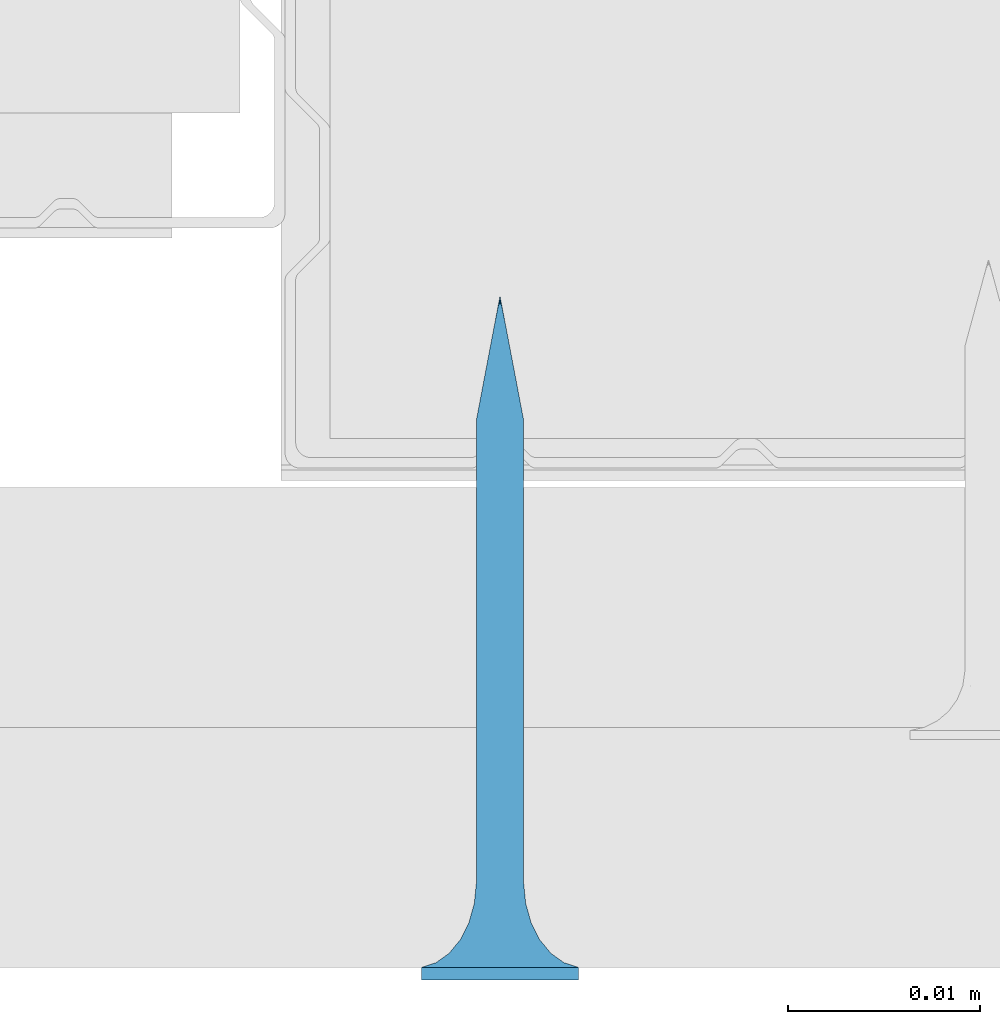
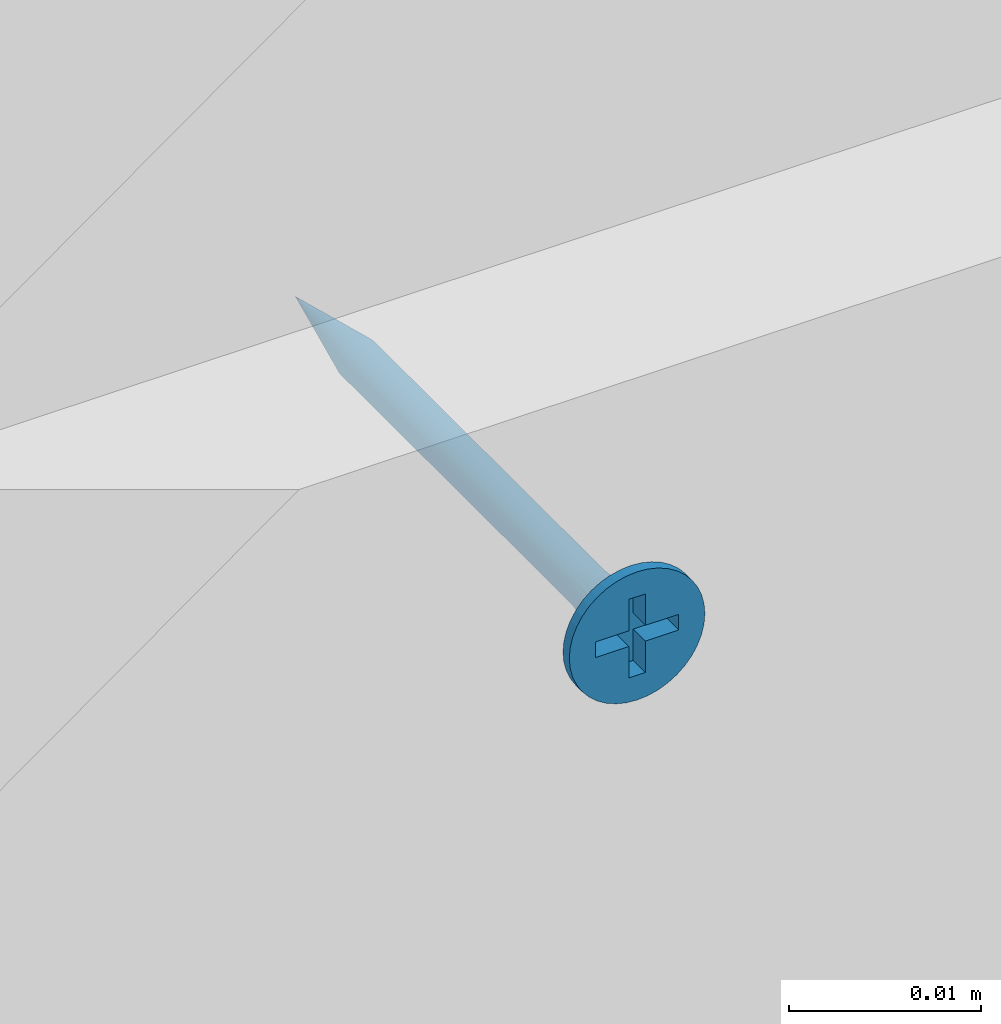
# One storey, part 21 of 39: 1 wall.
"""IFC2X3 building model written with IfcOpenShell, lengths in millimetres."""

from ifc_helpers import new_model, entity, si_unit, converted_unit, direction, frame, origin, origin_with_axes, place, context, project, spatial, faceted_brep, element, save


model = new_model("IFC2X3")

# Units and contexts
model_context = context("Model", 3, precision=1e-05, world=origin(), true_north=direction((0.0, 1.0, 0.0)))
ifc_project = project(units=[si_unit("LENGTHUNIT", "METRE", prefix="MILLI"), si_unit("AREAUNIT", "SQUARE_METRE"), si_unit("VOLUMEUNIT", "CUBIC_METRE"), converted_unit("PLANEANGLEUNIT", "DEGREE", entity("IfcPlaneAngleMeasure", 0.01745), si_unit("PLANEANGLEUNIT", "RADIAN"), dimensions=[0, 0, 0, 0, 0, 0, 0]), si_unit("SOLIDANGLEUNIT", "STERADIAN"), si_unit("MASSUNIT", "GRAM"), si_unit("TIMEUNIT", "SECOND"), si_unit("THERMODYNAMICTEMPERATUREUNIT", "DEGREE_CELSIUS"), si_unit("LUMINOUSINTENSITYUNIT", "LUMEN")], contexts=[model_context])

# Site, building, storey
site_placement = place(None, origin_with_axes())
site = spatial("IfcSite", under=ifc_project, at=site_placement, Name="Default Site", CompositionType="ELEMENT")
building_placement = place(site_placement, origin_with_axes())
building = spatial("IfcBuilding", under=site, at=building_placement, Name="Default Building", CompositionType="ELEMENT")
storey_placement = place(building_placement, origin_with_axes())
storey = spatial("IfcBuildingStorey", under=building, at=storey_placement, Name="Default Building Storey", CompositionType="ELEMENT", Elevation=0.0)

# Wall
wall_placement = place(storey_placement, frame((3258.585176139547, 6754.38934355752, 286.7018531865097), z_axis=(0.0, 0.0, 1.0), x_axis=(1.0, 4.718447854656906e-16, 0.0)))
element("IfcWall", 1, at=wall_placement, inside=storey, Name="Wkręt RIGIPS TN 35", context=model_context, shape_type="Brep", body=[
    faceted_brep([(-141.5377463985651, -4832.598051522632, 555.8000000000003), (-141.5377463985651, -4833.259713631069, 555.8000000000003), (-141.4875329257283, -4833.259713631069, 555.1619773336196), (-141.4875329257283, -4832.598051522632, 555.1619773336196), (-141.3381289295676, -4833.259713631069, 554.5396649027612), (-141.3381289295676, -4832.598051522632, 554.5396649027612), (-141.0932132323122, -4833.259713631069, 553.9483861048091), (-141.0932132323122, -4832.598051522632, 553.9483861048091), (-140.7588164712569, -4833.259713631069, 553.4027001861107), (-140.7588164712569, -4832.598051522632, 553.4027001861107), (-140.3431726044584, -4833.259713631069, 552.9160437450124), (-140.4541727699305, -4832.598051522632, 553.0314907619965), (-140.1080097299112, -4832.598051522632, 552.6986614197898), (-139.8565161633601, -4833.259713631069, 552.5003998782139), (-139.7251262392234, -4832.598051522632, 552.4088262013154), (-139.3108302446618, -4833.259713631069, 552.1660031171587), (-139.3108302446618, -4832.598051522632, 552.1660031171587), (-138.8708651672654, -4832.598051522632, 551.9735584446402), (-138.7195514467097, -4833.259713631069, 551.9210874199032), (-138.4113302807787, -4832.598051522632, 551.8341600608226), (-137.9385961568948, -4832.598051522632, 551.7497404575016), (-138.0972390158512, -4833.259713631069, 551.7716834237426), (-137.4592163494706, -4833.259713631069, 551.7214699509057), (-137.4592163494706, -4832.598051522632, 551.7214699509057), (-136.8211936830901, -4833.259713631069, 551.7716834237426), (-136.8211936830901, -4832.598051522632, 551.7716834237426), (-136.1988812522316, -4833.259713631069, 551.9210874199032), (-136.1988812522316, -4832.598051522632, 551.9210874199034), (-135.6076024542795, -4833.259713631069, 552.1660031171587), (-135.6076024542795, -4832.598051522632, 552.1660031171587), (-135.0619165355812, -4833.259713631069, 552.5003998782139), (-135.0619165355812, -4832.598051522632, 552.5003998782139), (-134.5752600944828, -4833.259713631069, 552.9160437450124), (-134.5752600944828, -4832.598051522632, 552.9160437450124), (-134.1596162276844, -4833.259713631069, 553.4027001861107), (-134.1596162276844, -4832.598051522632, 553.4027001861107), (-133.8252194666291, -4833.259713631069, 553.9483861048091), (-133.8252194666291, -4832.598051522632, 553.9483861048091), (-133.5803037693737, -4833.259713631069, 554.5396649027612), (-133.5803037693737, -4832.598051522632, 554.5396649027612), (-133.430899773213, -4833.259713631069, 556.4380226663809), (-133.430899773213, -4832.598051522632, 556.4380226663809), (-133.3806863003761, -4832.598051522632, 555.8000000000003), (-133.3806863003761, -4833.259713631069, 555.8000000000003), (-133.430899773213, -4832.598051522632, 555.1619773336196), (-133.430899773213, -4833.259713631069, 555.1619773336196), (-133.5803037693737, -4833.259713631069, 557.0603350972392), (-133.5803037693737, -4832.598051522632, 557.0603350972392), (-133.8252194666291, -4833.259713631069, 557.6516138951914), (-133.8252194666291, -4832.598051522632, 557.6516138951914), (-134.1596162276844, -4833.259713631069, 558.1972998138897), (-134.1596162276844, -4832.598051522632, 558.1972998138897), (-134.5752600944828, -4833.259713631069, 558.683956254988), (-134.5752600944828, -4832.598051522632, 558.683956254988), (-135.0619165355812, -4833.259713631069, 559.0996001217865), (-135.0619165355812, -4832.598051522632, 559.0996001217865), (-135.6076024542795, -4833.259713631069, 559.4339968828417), (-135.6076024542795, -4832.598051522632, 559.4339968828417), (-136.1988812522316, -4833.259713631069, 559.6789125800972), (-136.1988812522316, -4832.598051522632, 559.6789125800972), (-136.8211936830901, -4833.259713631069, 559.8283165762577), (-136.8211936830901, -4832.598051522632, 559.8283165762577), (-137.4592163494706, -4833.259713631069, 559.8785300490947), (-137.4592163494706, -4832.598051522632, 559.8785300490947), (-138.0972390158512, -4833.259713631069, 559.8283165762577), (-138.0972390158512, -4832.598051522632, 559.8283165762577), (-138.7195514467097, -4833.259713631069, 559.6789125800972), (-138.7195514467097, -4832.598051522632, 559.6789125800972), (-139.3108302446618, -4833.259713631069, 559.4339968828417), (-139.3108302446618, -4832.598051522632, 559.4339968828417), (-139.8565161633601, -4833.259713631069, 559.0996001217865), (-139.8565161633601, -4832.598051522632, 559.0996001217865), (-140.3431726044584, -4833.259713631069, 558.683956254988), (-140.3431726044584, -4832.598051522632, 558.683956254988), (-140.7588164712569, -4833.259713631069, 558.1972998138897), (-140.7588164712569, -4832.598051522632, 558.1972998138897), (-141.0932132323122, -4833.259713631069, 557.6516138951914), (-141.0932132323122, -4832.598051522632, 557.6516138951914), (-141.3381289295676, -4833.259713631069, 557.0603350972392), (-141.3381289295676, -4832.598051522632, 557.0603350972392), (-141.4875329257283, -4833.259713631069, 556.4380226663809), (-141.4875329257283, -4832.598051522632, 556.4380226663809), (-137.8060615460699, -4829.281368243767, 554.5055560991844), (-137.4592163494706, -4828.206294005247, 554.5693795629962), (-137.651727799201, -4828.206294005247, 554.5845305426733), (-137.4592163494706, -4829.281368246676, 554.4598930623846), (-137.83949897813, -4828.206294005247, 554.6296104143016), (-138.1292698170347, -4829.281368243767, 554.639433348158), (-138.0179063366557, -4828.206294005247, 554.7035091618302), (-138.1825568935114, -4828.206294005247, 554.804407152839), (-138.4068150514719, -4829.281368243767, 554.8524012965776), (-138.329396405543, -4828.206294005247, 554.929819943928), (-138.6197830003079, -4829.281368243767, 555.1299465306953), (-138.4548091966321, -4828.206294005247, 555.0766594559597), (-138.5557071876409, -4828.206294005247, 555.2413100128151), (-138.7536602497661, -4829.281368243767, 555.4531548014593), (-138.6296059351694, -4828.206294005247, 555.4197173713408), (-138.6746858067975, -4828.206294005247, 555.60748855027), (-138.7993232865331, -4829.281368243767, 555.7999999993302), (-138.6898367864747, -4828.206294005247, 555.8000000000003), (-138.753660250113, -4829.281368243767, 556.1468451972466), (-138.6746858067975, -4828.206294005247, 555.9925114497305), (-138.6296059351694, -4828.206294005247, 556.1802826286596), (-138.6197830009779, -4829.281368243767, 556.4700534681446), (-138.5557071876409, -4828.206294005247, 556.3586899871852), (-138.4548091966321, -4828.206294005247, 556.5233405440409), (-138.4068150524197, -4829.281368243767, 556.7475987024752), (-138.329396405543, -4828.206294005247, 556.6701800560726), (-138.1292698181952, -4829.281368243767, 556.9605666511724), (-138.1825568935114, -4828.206294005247, 556.7955928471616), (-138.0179063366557, -4828.206294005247, 556.8964908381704), (-137.8060615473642, -4829.281368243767, 557.0944439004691), (-137.83949897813, -4828.206294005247, 556.9703895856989), (-137.651727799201, -4828.206294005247, 557.0154694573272), (-137.4592163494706, -4829.281368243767, 557.1401069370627), (-137.4592163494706, -4828.206294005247, 557.0306204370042), (-137.112371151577, -4829.281368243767, 557.0944439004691), (-137.2667048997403, -4828.206294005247, 557.0154694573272), (-137.0789337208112, -4828.206294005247, 556.9703895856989), (-136.7891628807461, -4829.281368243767, 556.9605666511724), (-136.9005263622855, -4828.206294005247, 556.8964908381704), (-136.7358758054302, -4828.206294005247, 556.7955928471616), (-136.5116176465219, -4829.281368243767, 556.7475987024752), (-136.5890362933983, -4828.206294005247, 556.6701800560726), (-136.2986496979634, -4829.281368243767, 556.4700534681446), (-136.4636235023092, -4828.206294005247, 556.5233405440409), (-136.3627255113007, -4828.206294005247, 556.3586899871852), (-136.1647724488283, -4829.281368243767, 556.1468451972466), (-136.2888267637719, -4828.206294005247, 556.1802826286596), (-136.2437468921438, -4828.206294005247, 555.9925114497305), (-136.1191094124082, -4829.281368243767, 555.7999999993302), (-136.2285959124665, -4828.206294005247, 555.8000000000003), (-136.1647724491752, -4829.281368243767, 555.4531548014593), (-136.2437468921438, -4828.206294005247, 555.60748855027), (-136.2888267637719, -4828.206294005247, 555.4197173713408), (-136.2986496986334, -4829.281368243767, 555.1299465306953), (-136.3627255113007, -4828.206294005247, 555.2413100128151), (-136.4636235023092, -4828.206294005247, 555.0766594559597), (-136.5116176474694, -4829.281368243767, 554.8524012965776), (-136.5890362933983, -4828.206294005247, 554.929819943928), (-136.7891628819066, -4829.281368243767, 554.639433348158), (-136.7358758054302, -4828.206294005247, 554.804407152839), (-136.9005263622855, -4828.206294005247, 554.7035091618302), (-137.1123711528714, -4829.281368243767, 554.5055560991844), (-137.0789337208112, -4828.206294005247, 554.6296104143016), (-137.2667048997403, -4828.206294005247, 554.5845305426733), (-137.4592163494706, -4830.288222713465, 554.1737111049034), (-137.8801308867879, -4830.288222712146, 554.229125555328), (-138.2723607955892, -4830.288222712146, 554.3915925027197), (-138.6091762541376, -4830.288222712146, 554.6500400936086), (-138.8676238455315, -4830.288222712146, 554.9868555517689), (-139.0300907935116, -4830.288222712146, 555.3790854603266), (-139.0855052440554, -4830.288222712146, 555.7999999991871), (-139.0300907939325, -4830.288222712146, 556.2209145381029), (-138.8676238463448, -4830.288222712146, 556.6131444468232), (-138.6091762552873, -4830.288222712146, 556.9499599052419), (-138.2723607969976, -4830.288222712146, 557.2084074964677), (-137.8801308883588, -4830.288222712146, 557.3708744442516), (-137.4592163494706, -4830.288222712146, 557.426288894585), (-137.0383018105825, -4830.288222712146, 557.3708744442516), (-136.6460719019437, -4830.288222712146, 557.2084074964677), (-136.309256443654, -4830.288222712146, 556.9499599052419), (-136.0508088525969, -4830.288222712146, 556.6131444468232), (-135.8883419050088, -4830.288222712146, 556.2209145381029), (-135.8329274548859, -4830.288222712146, 555.7999999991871), (-135.8883419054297, -4830.288222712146, 555.3790854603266), (-136.0508088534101, -4830.288222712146, 554.9868555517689), (-136.309256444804, -4830.288222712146, 554.6500400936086), (-136.6460719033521, -4830.288222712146, 554.3915925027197), (-137.0383018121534, -4830.288222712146, 554.229125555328), (-137.4592163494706, -4831.168773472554, 553.7273431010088), (-137.9956594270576, -4831.168773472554, 553.7979671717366), (-138.4955447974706, -4831.168773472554, 554.005026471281), (-138.9248060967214, -4831.168773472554, 554.3344102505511), (-139.2541898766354, -4831.168773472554, 554.7636715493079), (-139.4612491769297, -4831.168773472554, 555.2635569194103), (-139.5318732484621, -4831.168773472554, 555.7999999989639), (-139.461249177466, -4831.168773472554, 556.3364430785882), (-139.2541898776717, -4831.168773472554, 556.8363284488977), (-138.9248060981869, -4831.168773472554, 557.2655897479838), (-138.4955447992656, -4831.168773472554, 557.594973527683), (-137.9956594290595, -4831.168773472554, 557.8020328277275), (-137.4592163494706, -4831.168773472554, 557.8726568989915), (-136.9227732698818, -4831.168773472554, 557.8020328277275), (-136.4228878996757, -4831.168773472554, 557.594973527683), (-135.9936266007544, -4831.168773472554, 557.2655897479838), (-135.6642428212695, -4831.168773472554, 556.8363284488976), (-135.4571835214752, -4831.168773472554, 556.3364430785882), (-135.3865594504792, -4831.168773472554, 555.7999999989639), (-135.4571835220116, -4831.168773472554, 555.2635569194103), (-135.6642428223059, -4831.168773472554, 554.7636715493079), (-135.9936266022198, -4831.168773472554, 554.3344102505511), (-136.4228879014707, -4831.168773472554, 554.005026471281), (-136.9227732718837, -4831.168773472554, 553.7979671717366), (-137.4592163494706, -4831.872222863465, 553.1465393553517), (-138.1459824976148, -4831.872222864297, 553.2369538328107), (-138.7859466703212, -4831.872222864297, 553.5020356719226), (-139.3354963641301, -4831.872222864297, 553.9237199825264), (-139.7571806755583, -4831.872222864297, 554.4732696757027), (-140.02226251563, -4831.872222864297, 555.1132338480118), (-140.1126769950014, -4831.872222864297, 555.7999999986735), (-140.0222625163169, -4831.872222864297, 556.4867661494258), (-139.7571806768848, -4831.872222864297, 557.1267303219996), (-139.3354963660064, -4831.872222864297, 557.6762800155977), (-138.785946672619, -4831.872222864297, 558.0979643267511), (-138.1459825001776, -4831.872222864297, 558.3630461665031), (-137.4592163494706, -4831.872222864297, 558.4534606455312), (-136.7724501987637, -4831.872222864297, 558.3630461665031), (-136.1324860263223, -4831.872222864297, 558.0979643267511), (-135.5829363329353, -4831.872222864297, 557.6762800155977), (-135.1612520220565, -4831.872222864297, 557.1267303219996), (-134.8961701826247, -4831.872222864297, 556.4867661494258), (-134.8057557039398, -4831.872222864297, 555.7999999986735), (-134.8961701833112, -4831.872222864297, 555.1132338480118), (-135.161252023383, -4831.872222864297, 554.4732696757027), (-135.5829363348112, -4831.872222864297, 553.9237199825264), (-136.1324860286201, -4831.872222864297, 553.5020356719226), (-136.7724502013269, -4831.872222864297, 553.2369538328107), (-137.4592163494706, -4832.357989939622, 552.4648055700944), (-138.3224281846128, -4832.357989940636, 552.578449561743), (-139.1268135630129, -4832.357989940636, 552.9116368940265), (-139.8175549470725, -4832.357989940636, 553.4416613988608), (-140.3475794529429, -4832.357989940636, 554.1324027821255), (-140.6807667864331, -4832.357989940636, 554.9367881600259), (-140.7944107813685, -4832.357989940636, 555.7999999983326), (-140.6807667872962, -4832.357989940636, 556.6632118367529), (-140.3475794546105, -4832.357989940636, 557.4675972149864), (-139.817554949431, -4832.357989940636, 558.1583385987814), (-139.1268135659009, -4832.357989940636, 558.6883631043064), (-138.3224281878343, -4832.357989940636, 559.0215504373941), (-137.4592163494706, -4832.357989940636, 559.1351944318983), (-136.5960045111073, -4832.357989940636, 559.0215504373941), (-135.7916191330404, -4832.357989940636, 558.6883631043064), (-135.1008777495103, -4832.357989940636, 558.1583385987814), (-134.5708532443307, -4832.357989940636, 557.4675972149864), (-134.2376659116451, -4832.357989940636, 556.6632118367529), (-134.1240219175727, -4832.357989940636, 555.7999999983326), (-134.2376659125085, -4832.357989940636, 554.9367881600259), (-134.5708532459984, -4832.357989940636, 554.1324027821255), (-135.1008777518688, -4832.357989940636, 553.4416613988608), (-135.7916191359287, -4832.357989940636, 552.9116368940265), (-136.5960045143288, -4832.357989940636, 552.578449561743), (-138.6898367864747, -4804.093757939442, 555.8000000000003), (-138.6746858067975, -4804.093757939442, 555.60748855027), (-138.6296059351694, -4804.093757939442, 555.4197173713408), (-138.5557071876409, -4804.093757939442, 555.2413100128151), (-138.4548091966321, -4804.093757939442, 555.0766594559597), (-138.329396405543, -4804.093757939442, 554.929819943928), (-138.1825568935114, -4804.093757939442, 554.804407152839), (-138.0179063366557, -4804.093757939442, 554.7035091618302), (-137.83949897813, -4804.093757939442, 554.6296104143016), (-137.651727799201, -4804.093757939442, 554.5845305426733), (-137.4592163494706, -4804.093757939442, 554.5693795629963), (-137.2667048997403, -4804.093757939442, 554.5845305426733), (-137.0789337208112, -4804.093757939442, 554.6296104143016), (-136.9005263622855, -4804.093757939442, 554.7035091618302), (-136.7358758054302, -4804.093757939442, 554.804407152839), (-136.5890362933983, -4804.093757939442, 554.929819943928), (-136.4636235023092, -4804.093757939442, 555.0766594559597), (-136.3627255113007, -4804.093757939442, 555.2413100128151), (-136.2888267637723, -4804.093757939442, 555.4197173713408), (-136.2437468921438, -4804.093757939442, 555.9925114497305), (-136.2285959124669, -4804.093757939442, 555.8000000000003), (-136.2437468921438, -4804.093757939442, 555.60748855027), (-136.2888267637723, -4804.093757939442, 556.1802826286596), (-136.3627255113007, -4804.093757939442, 556.3586899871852), (-136.4636235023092, -4804.093757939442, 556.5233405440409), (-136.5890362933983, -4804.093757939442, 556.6701800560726), (-136.7358758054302, -4804.093757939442, 556.7955928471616), (-136.9005263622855, -4804.093757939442, 556.8964908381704), (-137.0789337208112, -4804.093757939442, 556.9703895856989), (-137.2667048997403, -4804.093757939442, 557.0154694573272), (-137.4592163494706, -4804.093757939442, 557.0306204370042), (-137.651727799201, -4804.093757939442, 557.0154694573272), (-137.83949897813, -4804.093757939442, 556.9703895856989), (-138.0179063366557, -4804.093757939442, 556.8964908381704), (-138.1825568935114, -4804.093757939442, 556.7955928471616), (-138.329396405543, -4804.093757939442, 556.6701800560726), (-138.4548091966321, -4804.093757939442, 556.5233405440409), (-138.5557071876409, -4804.093757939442, 556.3586899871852), (-138.6296059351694, -4804.093757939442, 556.1802826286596), (-138.6746858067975, -4804.093757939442, 555.9925114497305), (-137.4592163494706, -4797.627063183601, 555.8000000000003), (-139.9592163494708, -4833.259713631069, 556.3000000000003), (-137.9592163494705, -4833.259713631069, 556.3000000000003), (-139.9592163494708, -4833.259713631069, 555.3000000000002), (-137.9592163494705, -4833.259713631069, 555.3000000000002), (-137.9592163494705, -4833.259713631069, 553.3000000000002), (-136.9592163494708, -4833.259713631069, 553.3000000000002), (-136.9592163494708, -4833.259713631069, 555.3000000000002), (-134.9592163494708, -4833.259713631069, 555.3000000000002), (-134.9592163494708, -4833.259713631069, 556.3000000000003), (-136.9592163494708, -4833.259713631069, 556.3000000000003), (-136.9592163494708, -4833.259713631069, 558.3000000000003), (-137.9592163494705, -4833.259713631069, 558.3000000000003), (-136.9592163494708, -4831.988379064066, 556.3000000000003), (-134.9592163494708, -4831.988379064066, 556.3000000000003), (-134.9592163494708, -4831.988379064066, 555.3000000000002), (-136.9592163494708, -4831.988379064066, 555.3000000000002), (-136.9592163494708, -4831.988379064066, 553.3000000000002), (-137.9592163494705, -4831.988379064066, 553.3000000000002), (-137.9592163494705, -4831.988379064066, 555.3000000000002), (-139.9592163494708, -4831.988379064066, 555.3000000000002), (-139.9592163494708, -4831.988379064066, 556.3000000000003), (-137.9592163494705, -4831.988379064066, 556.3000000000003), (-137.9592163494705, -4831.988379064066, 558.3000000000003), (-136.9592163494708, -4831.988379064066, 558.3000000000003)], [[[0, 1, 2, 3]], [[4, 5, 3, 2]], [[6, 7, 5, 4]], [[7, 6, 8, 9]], [[8, 10, 9]], [[10, 11, 9]], [[12, 11, 13]], [[11, 10, 13]], [[13, 14, 12]], [[13, 15, 14]], [[15, 16, 14]], [[17, 16, 18]], [[16, 15, 18]], [[18, 19, 17]], [[20, 19, 21]], [[19, 18, 21]], [[21, 22, 20]], [[22, 23, 20]], [[23, 22, 24, 25]], [[26, 27, 25, 24]], [[28, 29, 27, 26]], [[29, 28, 30, 31]], [[32, 33, 31, 30]], [[33, 32, 34, 35]], [[36, 37, 35, 34]], [[38, 39, 37, 36]], [[40, 41, 42, 43]], [[43, 42, 44, 45]], [[39, 38, 45, 44]], [[46, 47, 41, 40]], [[48, 49, 47, 46]], [[49, 48, 50, 51]], [[52, 53, 51, 50]], [[53, 52, 54, 55]], [[56, 57, 55, 54]], [[58, 59, 57, 56]], [[59, 58, 60, 61]], [[62, 63, 61, 60]], [[63, 62, 64, 65]], [[66, 67, 65, 64]], [[68, 69, 67, 66]], [[69, 68, 70, 71]], [[72, 73, 71, 70]], [[73, 72, 74, 75]], [[76, 77, 75, 74]], [[78, 79, 77, 76]], [[79, 78, 80, 81]], [[1, 0, 81, 80]], [[82, 83, 84]], [[82, 85, 83]], [[84, 86, 82]], [[82, 86, 87]], [[88, 87, 86]], [[87, 88, 89]], [[89, 90, 87]], [[89, 91, 90]], [[92, 91, 93]], [[92, 90, 91]], [[93, 94, 92]], [[92, 94, 95]], [[96, 95, 94]], [[95, 96, 97]], [[97, 98, 95]], [[97, 99, 98]], [[100, 99, 101]], [[100, 98, 99]], [[101, 102, 100]], [[100, 102, 103]], [[104, 103, 102]], [[103, 104, 105]], [[105, 106, 103]], [[105, 107, 106]], [[108, 107, 109]], [[108, 106, 107]], [[109, 110, 108]], [[108, 110, 111]], [[112, 111, 110]], [[111, 112, 113]], [[113, 114, 111]], [[113, 115, 114]], [[116, 115, 117]], [[116, 114, 115]], [[117, 118, 116]], [[116, 118, 119]], [[120, 119, 118]], [[119, 120, 121]], [[121, 122, 119]], [[121, 123, 122]], [[124, 123, 125]], [[124, 122, 123]], [[125, 126, 124]], [[124, 126, 127]], [[128, 127, 126]], [[127, 128, 129]], [[129, 130, 127]], [[129, 131, 130]], [[132, 131, 133]], [[132, 130, 131]], [[133, 134, 132]], [[132, 134, 135]], [[136, 135, 134]], [[135, 136, 137]], [[137, 138, 135]], [[137, 139, 138]], [[140, 139, 141]], [[140, 138, 139]], [[141, 142, 140]], [[140, 142, 143]], [[144, 143, 142]], [[143, 144, 145]], [[145, 85, 143]], [[145, 83, 85]], [[146, 85, 147]], [[82, 147, 85]], [[87, 148, 147, 82]], [[90, 149, 148, 87]], [[92, 150, 149, 90]], [[95, 151, 150, 92]], [[98, 152, 151, 95]], [[100, 153, 152, 98]], [[103, 154, 153, 100]], [[106, 155, 154, 103]], [[108, 156, 155, 106]], [[111, 157, 156, 108]], [[114, 158, 157, 111]], [[116, 159, 158, 114]], [[119, 160, 159, 116]], [[122, 161, 160, 119]], [[124, 162, 161, 122]], [[127, 163, 162, 124]], [[130, 164, 163, 127]], [[132, 165, 164, 130]], [[135, 166, 165, 132]], [[138, 167, 166, 135]], [[140, 168, 167, 138]], [[143, 169, 168, 140]], [[143, 85, 169]], [[146, 169, 85]], [[170, 146, 171]], [[147, 171, 146]], [[148, 172, 171, 147]], [[149, 173, 172, 148]], [[150, 174, 173, 149]], [[151, 175, 174, 150]], [[152, 176, 175, 151]], [[153, 177, 176, 152]], [[154, 178, 177, 153]], [[155, 179, 178, 154]], [[156, 180, 179, 155]], [[157, 181, 180, 156]], [[158, 182, 181, 157]], [[159, 183, 182, 158]], [[160, 184, 183, 159]], [[161, 185, 184, 160]], [[162, 186, 185, 161]], [[163, 187, 186, 162]], [[164, 188, 187, 163]], [[165, 189, 188, 164]], [[166, 190, 189, 165]], [[167, 191, 190, 166]], [[168, 192, 191, 167]], [[169, 193, 192, 168]], [[169, 146, 193]], [[170, 193, 146]], [[194, 170, 195]], [[171, 195, 170]], [[172, 196, 195, 171]], [[173, 197, 196, 172]], [[174, 198, 197, 173]], [[175, 199, 198, 174]], [[176, 200, 199, 175]], [[177, 201, 200, 176]], [[178, 202, 201, 177]], [[179, 203, 202, 178]], [[180, 204, 203, 179]], [[181, 205, 204, 180]], [[182, 206, 205, 181]], [[183, 207, 206, 182]], [[184, 208, 207, 183]], [[185, 209, 208, 184]], [[186, 210, 209, 185]], [[187, 211, 210, 186]], [[188, 212, 211, 187]], [[189, 213, 212, 188]], [[190, 214, 213, 189]], [[191, 215, 214, 190]], [[192, 216, 215, 191]], [[193, 217, 216, 192]], [[193, 170, 217]], [[194, 217, 170]], [[218, 19, 20]], [[218, 219, 19]], [[20, 23, 218]], [[218, 194, 219]], [[195, 219, 194]], [[219, 16, 17]], [[219, 220, 16]], [[17, 19, 219]], [[196, 220, 219, 195]], [[221, 11, 12]], [[220, 12, 14]], [[220, 221, 12]], [[14, 16, 220]], [[197, 221, 220, 196]], [[222, 7, 9]], [[9, 221, 222]], [[9, 11, 221]], [[198, 222, 221, 197]], [[5, 7, 223]], [[222, 223, 7]], [[199, 223, 222, 198]], [[223, 0, 3]], [[223, 224, 0]], [[3, 5, 223]], [[200, 224, 223, 199]], [[225, 79, 81]], [[81, 224, 225]], [[81, 0, 224]], [[201, 225, 224, 200]], [[225, 226, 77, 79]], [[202, 226, 225, 201]], [[226, 73, 75]], [[226, 227, 73]], [[75, 77, 226]], [[203, 227, 226, 202]], [[228, 69, 71]], [[71, 227, 228]], [[71, 73, 227]], [[204, 228, 227, 203]], [[228, 229, 67, 69]], [[205, 229, 228, 204]], [[229, 63, 65]], [[229, 230, 63]], [[65, 67, 229]], [[206, 230, 229, 205]], [[231, 59, 61]], [[61, 230, 231]], [[61, 63, 230]], [[207, 231, 230, 206]], [[231, 232, 57, 59]], [[208, 232, 231, 207]], [[232, 53, 55]], [[232, 233, 53]], [[55, 57, 232]], [[209, 233, 232, 208]], [[234, 49, 51]], [[51, 233, 234]], [[51, 53, 233]], [[210, 234, 233, 209]], [[234, 235, 47, 49]], [[211, 235, 234, 210]], [[235, 42, 41]], [[235, 236, 42]], [[41, 47, 235]], [[212, 236, 235, 211]], [[237, 39, 44]], [[44, 236, 237]], [[44, 42, 236]], [[213, 237, 236, 212]], [[37, 39, 238]], [[237, 238, 39]], [[214, 238, 237, 213]], [[238, 33, 35]], [[238, 239, 33]], [[35, 37, 238]], [[215, 239, 238, 214]], [[240, 29, 31]], [[31, 239, 240]], [[31, 33, 239]], [[216, 240, 239, 215]], [[27, 29, 241]], [[240, 241, 29]], [[217, 241, 240, 216]], [[217, 194, 241]], [[218, 241, 194]], [[241, 23, 25]], [[241, 218, 23]], [[25, 27, 241]], [[242, 99, 97, 243]], [[96, 244, 243, 97]], [[94, 245, 244, 96]], [[245, 94, 93, 246]], [[91, 247, 246, 93]], [[247, 91, 89, 248]], [[88, 249, 248, 89]], [[86, 250, 249, 88]], [[250, 86, 84, 251]], [[83, 252, 251, 84]], [[252, 83, 145, 253]], [[144, 254, 253, 145]], [[142, 255, 254, 144]], [[255, 142, 141, 256]], [[139, 257, 256, 141]], [[257, 139, 137, 258]], [[136, 259, 258, 137]], [[134, 260, 259, 136]], [[129, 261, 262, 131]], [[131, 262, 263, 133]], [[260, 134, 133, 263]], [[128, 264, 261, 129]], [[126, 265, 264, 128]], [[265, 126, 125, 266]], [[123, 267, 266, 125]], [[267, 123, 121, 268]], [[120, 269, 268, 121]], [[118, 270, 269, 120]], [[270, 118, 117, 271]], [[115, 272, 271, 117]], [[272, 115, 113, 273]], [[112, 274, 273, 113]], [[110, 275, 274, 112]], [[275, 110, 109, 276]], [[107, 277, 276, 109]], [[277, 107, 105, 278]], [[104, 279, 278, 105]], [[102, 280, 279, 104]], [[280, 102, 101, 281]], [[99, 242, 281, 101]], [[243, 244, 282]], [[282, 242, 243]], [[244, 245, 282]], [[246, 247, 282]], [[282, 245, 246]], [[248, 249, 282]], [[282, 247, 248]], [[249, 250, 282]], [[251, 252, 282]], [[282, 250, 251]], [[253, 254, 282]], [[282, 252, 253]], [[254, 255, 282]], [[256, 257, 282]], [[282, 255, 256]], [[258, 259, 282]], [[282, 257, 258]], [[259, 260, 282]], [[263, 262, 282]], [[282, 260, 263]], [[261, 264, 282]], [[282, 262, 261]], [[264, 265, 282]], [[266, 267, 282]], [[282, 265, 266]], [[268, 269, 282]], [[282, 267, 268]], [[269, 270, 282]], [[271, 272, 282]], [[282, 270, 271]], [[273, 274, 282]], [[282, 272, 273]], [[274, 275, 282]], [[276, 277, 282]], [[282, 275, 276]], [[278, 279, 282]], [[282, 277, 278]], [[279, 280, 282]], [[281, 242, 282]], [[282, 280, 281]], [[283, 76, 74, 284]], [[283, 285, 286, 287, 288, 289, 290, 291, 292, 293, 294, 284, 74, 72, 70, 68, 66, 64, 62, 60, 58, 56, 54, 52, 50, 48, 46, 40, 43, 45, 38, 36, 34, 32, 30, 28, 26, 24, 22, 21, 18, 15, 13, 10, 8, 6, 4, 2, 1, 80, 78, 76]], [[295, 296, 297, 298, 299, 300, 301, 302, 303, 304, 305, 306]], [[297, 290, 289, 298]], [[296, 291, 290, 297]], [[295, 292, 291, 296]], [[306, 293, 292, 295]], [[305, 294, 293, 306]], [[304, 284, 294, 305]], [[303, 283, 284, 304]], [[302, 285, 283, 303]], [[301, 286, 285, 302]], [[300, 287, 286, 301]], [[299, 288, 287, 300]], [[298, 289, 288, 299]]]),
])

save(model, "model.ifc")
